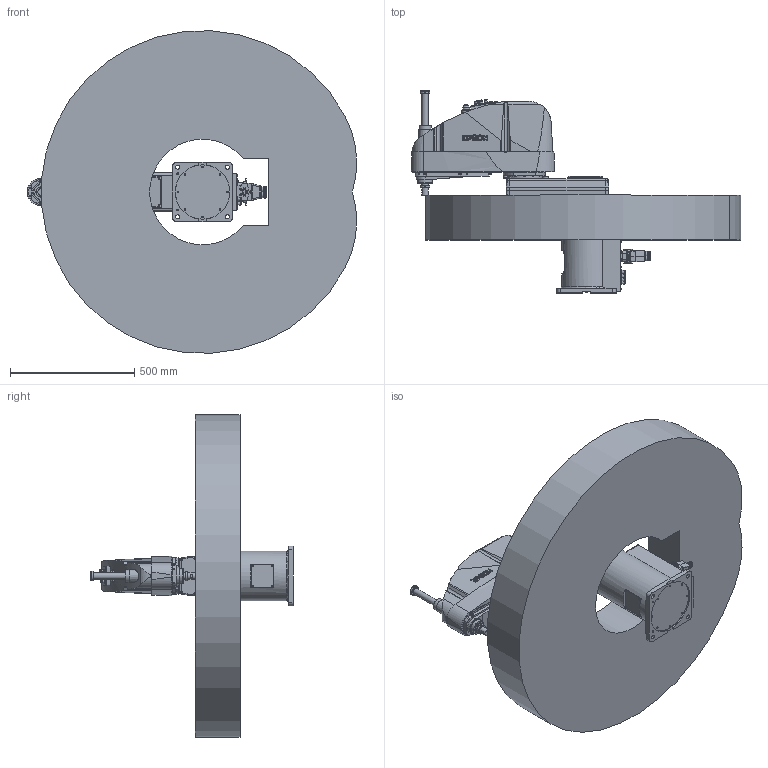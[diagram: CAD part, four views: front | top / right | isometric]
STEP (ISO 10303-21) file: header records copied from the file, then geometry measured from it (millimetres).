
FILE_DESCRIPTION( ( 'STEP AP214' ), '1' );
FILE_NAME( 'C:/Users/9607552/Desktop/GX10-B651S_straight.stp', '2023-08-01T08:54:40', ( '' ), ( '' ), ' ', 'PARTsolutions', ' ' );
FILE_SCHEMA( ( 'AUTOMOTIVE_DESIGN { 1 0 10303 214 1 1 1 1 }' ) );
Length unit declared in the file: millimetre
Products named in the file (7): GX10-B651SS-W; _Base s; _Straight-B; _J1 Arm GX10-250; _J2 Arm GX10-s; _J3 Arm GX10-s (1); _GX10_20B-20_1
Assembly tree (6 placements, depth 2):
  GX10-B651SS-W
    _Base s
    _Straight-B
    _J1 Arm GX10-250
    _J2 Arm GX10-s
    _J3 Arm GX10-s (1)
    _GX10_20B-20_1
Bounding box: 1326.13 x 813.5 x 1298.06 mm (x, y, z)
Volume: 246650301.3 mm3; surface area: 4636155.8 mm2
Topology: 6 solids, 6 shells, 2420 faces, 5915 edges, 3855 vertices
Faces by surface type: plane 1254, cylinder 740, cone 328, torus 65, bspline 32, sphere 1
Full cylindrical faces by diameter (mm): 1 x24, 1.18 x55, 3 x32, 3.242 x10, 3.3 x4, 4.2 x4, 4.8 x4, 5.1 x4, 5.25 x2, 5.34 x4, 5.4 x5, 5.5 x12, 6 x1, 6.2 x4, 6.647 x2, 7 x31, 8 x9, 8.5 x2, 9 x4, 10 x32, 11 x14, 12 x6, 12.25 x1, 13 x2, 14 x8, 14.25 x1, 16 x6, 18 x1, 20.4 x1, 21.7 x2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
Entity records: 91839 total; most frequent: CARTESIAN_POINT 17766, DIRECTION 11264, ORIENTED_EDGE 10522, EDGE_CURVE 5261, AXIS2_PLACEMENT_3D 4332, VERTEX_POINT 3770, EDGE_LOOP 3363, FACE_OUTER_BOUND 2782
